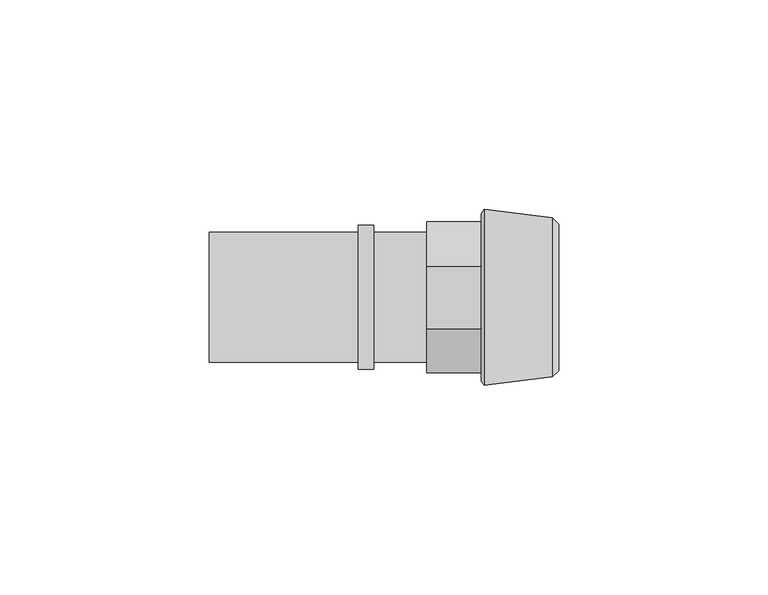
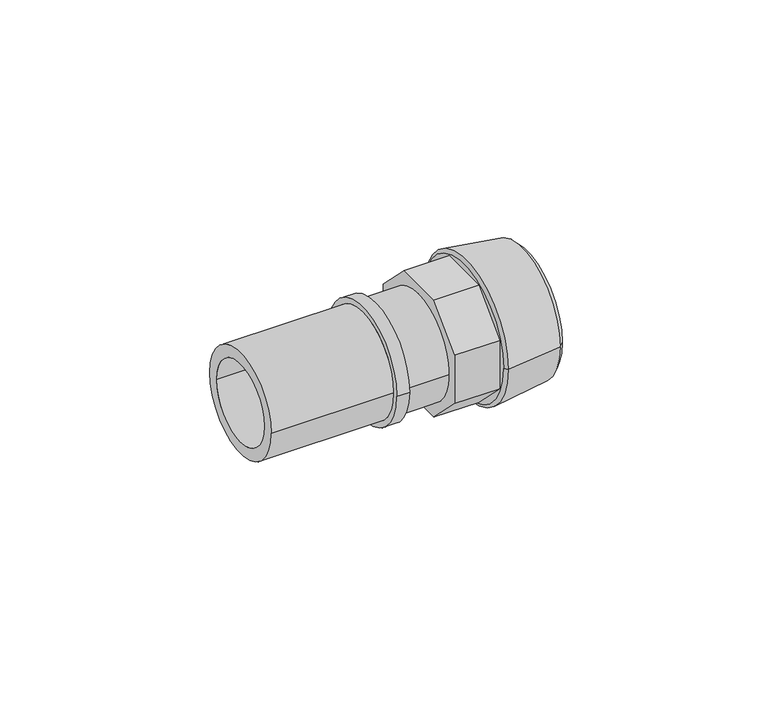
"""IFC4 building model written with IfcOpenShell, lengths in millimetres: pipe fitting geometry, FASTLOC_Adapter_LX, with external thread : FSL A C external PL."""

from ifc_helpers import new_model, si_unit, frame, origin, place, context, project, spatial, polyline, circle_curve, outline, extrude, source, transform, mapped, element, save
from ifc_brep_helpers import plane_surface, cylinder_surface, revolved_surface, advanced_brep


def pipe_fitting_002f9ae5(model_context):
    return source(origin(), model_context, "Body", "SolidModel", [
        extrude(outline(polyline([(-18.0, 7.4558441), (-7.4558441, 18.0), (7.4558441, 18.0), (18.0, 7.4558441), (18.0, -7.4558441), (7.4558441, -18.0), (-7.4558441, -18.0), (-18.0, -7.4558441), (-18.0, 7.4558441)])), frame((0.0, 0.0, 0.0), z_axis=(1.0, 0.0, 0.0), x_axis=(0.0, 1.0, 0.0)), (0.0, 0.0, 1.0), 13.0),
        advanced_brep(
        [(14.1032803, 15.0, 0.0), (14.1032803, -15.0, 0.0), (31.5, -15.0, 0.0), (31.5, 15.0, 0.0), (13.0, 13.8967197, 0.0), (13.0, -13.8967197, 0.0), (13.7406902, 21.0, 0.0), (13.7406902, -21.0, 0.0), (13.0, -20.0, 0.0), (13.0, 20.0, 0.0), (30.0000007, 19.0, 0.0), (30.0000007, -19.0, 0.0), (31.5, 17.5, 0.0), (31.5, -17.5, 0.0)],
        [
            (0, 1, circle_curve(frame((14.1032803, 0.0, 0.0), z_axis=(-1.0, 0.0, 0.0), x_axis=(0.0, -1.0, 0.0)), 15.0)),
            (1, 2),
            (2, 3, circle_curve(frame((31.5, 0.0, 0.0), z_axis=(1.0, 0.0, 0.0), x_axis=(0.0, -1.0, 0.0)), 15.0)),
            (3, 0),
            (4, 5, circle_curve(frame((13.0, 0.0, 0.0), z_axis=(-1.0, 0.0, 0.0), x_axis=(0.0, -1.0, 0.0)), 13.8967197)),
            (5, 1),
            (0, 4),
            (6, 7, circle_curve(frame((13.7406902, 0.0, 0.0), z_axis=(-1.0, 0.0, 0.0), x_axis=(0.0, -1.0, 0.0)), 21.0)),
            (7, 8),
            (8, 9, circle_curve(frame((13.0, 0.0, 0.0), z_axis=(1.0, 0.0, 0.0), x_axis=(0.0, -1.0, 0.0)), 20.0)),
            (9, 6),
            (10, 11, circle_curve(frame((30.0000007, 0.0, 0.0), z_axis=(-1.0, 0.0, 0.0), x_axis=(0.0, -1.0, 0.0)), 19.0)),
            (11, 7),
            (6, 10),
            (12, 13, circle_curve(frame((31.5, 0.0, 0.0), z_axis=(-1.0, 0.0, 0.0), x_axis=(0.0, -1.0, 0.0)), 17.5)),
            (13, 11),
            (10, 12),
            (1, 0, circle_curve(frame((14.1032803, 0.0, 0.0), z_axis=(-1.0, 0.0, 0.0), x_axis=(0.0, 1.0, 0.0)), 15.0)),
            (3, 2, circle_curve(frame((31.5, 0.0, 0.0), z_axis=(1.0, 0.0, 0.0), x_axis=(0.0, 1.0, 0.0)), 15.0)),
            (5, 4, circle_curve(frame((13.0, 0.0, 0.0), z_axis=(-1.0, 0.0, 0.0), x_axis=(0.0, 1.0, 0.0)), 13.8967197)),
            (8, 9, circle_curve(frame((13.0, 0.0, 0.0), z_axis=(-1.0, 0.0, 0.0), x_axis=(0.0, 1.0, 0.0)), 20.0)),
            (7, 6, circle_curve(frame((13.7406902, 0.0, 0.0), z_axis=(-1.0, 0.0, 0.0), x_axis=(0.0, 1.0, 0.0)), 21.0)),
            (11, 10, circle_curve(frame((30.0000007, 0.0, 0.0), z_axis=(-1.0, 0.0, 0.0), x_axis=(0.0, 1.0, 0.0)), 19.0)),
            (13, 12, circle_curve(frame((31.5, 0.0, 0.0), z_axis=(-1.0, 0.0, 0.0), x_axis=(0.0, 1.0, 0.0)), 17.5)),
        ],
        [
            revolved_surface(polyline([(31.5, -15.0, 0.0), (14.1032803, -15.0, 0.0)]), (0.0, 0.0, 0.0), (1.0, 0.0, 0.0)),
            revolved_surface(polyline([(14.1032803, -15.0, 0.0), (13.0, -13.8967197, 0.0)]), (0.0, 0.0, 0.0), (1.0, 0.0, 0.0)),
            revolved_surface(polyline([(13.0, -20.0, 0.0), (13.7406902, -21.0, 0.0)]), (0.0, 0.0, 0.0), (1.0, 0.0, 0.0)),
            revolved_surface(polyline([(13.7406902, -21.0, 0.0), (30.0000007, -19.0, 0.0)]), (0.0, 0.0, 0.0), (1.0, 0.0, 0.0)),
            revolved_surface(polyline([(30.0000007, -19.0, 0.0), (31.5, -17.5, 0.0)]), (0.0, 0.0, 0.0), (1.0, 0.0, 0.0)),
            revolved_surface(polyline([(31.5, 15.0, 0.0), (14.1032803, 15.0, 0.0)]), (0.0, 0.0, 0.0), (1.0, 0.0, 0.0)),
            revolved_surface(polyline([(14.1032803, 15.0, 0.0), (13.0, 13.8967197, 0.0)]), (0.0, 0.0, 0.0), (1.0, 0.0, 0.0)),
            plane_surface(frame((13.0, 0.0, 0.0), z_axis=(-1.0, 0.0, 0.0), x_axis=(0.0, 1.0, 0.0))),
            revolved_surface(polyline([(13.0, 20.0, 0.0), (13.7406902, 21.0, 0.0)]), (0.0, 0.0, 0.0), (1.0, 0.0, 0.0)),
            revolved_surface(polyline([(13.7406902, 21.0, 0.0), (30.0000007, 19.0, 0.0)]), (0.0, 0.0, 0.0), (1.0, 0.0, 0.0)),
            revolved_surface(polyline([(30.0000007, 19.0, 0.0), (31.5, 17.5, 0.0)]), (0.0, 0.0, 0.0), (1.0, 0.0, 0.0)),
            plane_surface(frame((31.5, 0.0, 0.0), z_axis=(1.0, 0.0, 0.0), x_axis=(0.0, 1.0, 0.0))),
        ],
        [
            (0, [[1, 2, 3, 4]]),
            (1, [[5, 6, -1, 7]]),
            (2, [[8, 9, 10, 11]]),
            (3, [[12, 13, -8, 14]]),
            (4, [[15, 16, -12, 17]]),
            (5, [[18, -4, 19, -2]]),
            (6, [[20, -7, -18, -6]]),
            (7, [[21, -10], [-20, -5]]),
            (8, [[22, -11, -21, -9]]),
            (9, [[23, -14, -22, -13]]),
            (10, [[24, -17, -23, -16]]),
            (11, [[-24, -15], [-19, -3]]),
        ],
    ),
        advanced_brep(
        [(-16.4, 15.5, 0.0), (-16.4, -15.5, 0.0), (-51.9, -15.5, 0.0), (-51.9, 15.5, 0.0), (-12.7, 17.2, 0.0), (-12.7, -17.2, 0.0), (-16.4, -17.2, 0.0), (-16.4, 17.2, 0.0), (0.0, 15.5, 0.0), (0.0, -15.5, 0.0), (-12.7, -15.5, 0.0), (-12.7, 15.5, 0.0), (-51.9, 11.95, 0.0), (-51.9, -11.95, 0.0), (0.0, -11.95, 0.0), (0.0, 11.95, 0.0)],
        [
            (0, 1, circle_curve(frame((-16.4, 0.0, 0.0), z_axis=(-1.0, 0.0, 0.0), x_axis=(0.0, -1.0, 0.0)), 15.5)),
            (1, 2),
            (2, 3, circle_curve(frame((-51.9, 0.0, 0.0), z_axis=(1.0, 0.0, 0.0), x_axis=(0.0, -1.0, 0.0)), 15.5)),
            (3, 0),
            (4, 5, circle_curve(frame((-12.7, 0.0, 0.0), z_axis=(-1.0, 0.0, 0.0), x_axis=(0.0, -1.0, 0.0)), 17.2)),
            (5, 6),
            (6, 7, circle_curve(frame((-16.4, 0.0, 0.0), z_axis=(1.0, 0.0, 0.0), x_axis=(0.0, -1.0, 0.0)), 17.2)),
            (7, 4),
            (8, 9, circle_curve(frame((0.0, 0.0, 0.0), z_axis=(-1.0, 0.0, 0.0), x_axis=(0.0, -1.0, 0.0)), 15.5)),
            (9, 10),
            (10, 11, circle_curve(frame((-12.7, 0.0, 0.0), z_axis=(1.0, 0.0, 0.0), x_axis=(0.0, -1.0, 0.0)), 15.5)),
            (11, 8),
            (12, 13, circle_curve(frame((-51.9, 0.0, 0.0), z_axis=(-1.0, 0.0, 0.0), x_axis=(0.0, -1.0, 0.0)), 11.95)),
            (13, 14),
            (14, 15, circle_curve(frame((0.0, 0.0, 0.0), z_axis=(1.0, 0.0, 0.0), x_axis=(0.0, -1.0, 0.0)), 11.95)),
            (15, 12),
            (2, 3, circle_curve(frame((-51.9, 0.0, 0.0), z_axis=(-1.0, 0.0, 0.0), x_axis=(0.0, 1.0, 0.0)), 15.5)),
            (12, 13, circle_curve(frame((-51.9, 0.0, 0.0), z_axis=(1.0, 0.0, 0.0), x_axis=(0.0, 1.0, 0.0)), 11.95)),
            (1, 0, circle_curve(frame((-16.4, 0.0, 0.0), z_axis=(-1.0, 0.0, 0.0), x_axis=(0.0, 1.0, 0.0)), 15.5)),
            (6, 7, circle_curve(frame((-16.4, 0.0, 0.0), z_axis=(-1.0, 0.0, 0.0), x_axis=(0.0, 1.0, 0.0)), 17.2)),
            (5, 4, circle_curve(frame((-12.7, 0.0, 0.0), z_axis=(-1.0, 0.0, 0.0), x_axis=(0.0, 1.0, 0.0)), 17.2)),
            (10, 11, circle_curve(frame((-12.7, 0.0, 0.0), z_axis=(-1.0, 0.0, 0.0), x_axis=(0.0, 1.0, 0.0)), 15.5)),
            (9, 8, circle_curve(frame((0.0, 0.0, 0.0), z_axis=(-1.0, 0.0, 0.0), x_axis=(0.0, 1.0, 0.0)), 15.5)),
            (14, 15, circle_curve(frame((0.0, 0.0, 0.0), z_axis=(-1.0, 0.0, 0.0), x_axis=(0.0, 1.0, 0.0)), 11.95)),
        ],
        [
            cylinder_surface(frame((0.0, 0.0, 0.0), z_axis=(1.0, 0.0, 0.0), x_axis=(0.0, -1.0, 0.0)), 15.5),
            cylinder_surface(frame((0.0, 0.0, 0.0), z_axis=(1.0, 0.0, 0.0), x_axis=(0.0, -1.0, 0.0)), 17.2),
            revolved_surface(polyline([(0.0, -11.95, 0.0), (-51.9, -11.95, 0.0)]), (0.0, 0.0, 0.0), (1.0, 0.0, 0.0)),
            plane_surface(frame((-51.9, 0.0, 0.0), z_axis=(-1.0, 0.0, 0.0), x_axis=(0.0, 1.0, 0.0))),
            cylinder_surface(frame((0.0, 0.0, 0.0), z_axis=(1.0, 0.0, 0.0), x_axis=(0.0, 1.0, 0.0)), 15.5),
            plane_surface(frame((-16.4, 0.0, 0.0), z_axis=(-1.0, 0.0, 0.0), x_axis=(0.0, 1.0, 0.0))),
            cylinder_surface(frame((0.0, 0.0, 0.0), z_axis=(1.0, 0.0, 0.0), x_axis=(0.0, 1.0, 0.0)), 17.2),
            plane_surface(frame((-12.7, 0.0, 0.0), z_axis=(1.0, 0.0, 0.0), x_axis=(0.0, 1.0, 0.0))),
            plane_surface(frame((0.0, 0.0, 0.0), z_axis=(1.0, 0.0, 0.0), x_axis=(0.0, 1.0, 0.0))),
            revolved_surface(polyline([(0.0, 11.95, 0.0), (-51.9, 11.95, 0.0)]), (0.0, 0.0, 0.0), (1.0, 0.0, 0.0)),
        ],
        [
            (0, [[1, 2, 3, 4]]),
            (1, [[5, 6, 7, 8]]),
            (0, [[9, 10, 11, 12]]),
            (2, [[13, 14, 15, 16]]),
            (3, [[17, -3], [18, -13]]),
            (4, [[19, -4, -17, -2]]),
            (5, [[20, -7], [-19, -1]]),
            (6, [[21, -8, -20, -6]]),
            (7, [[-21, -5], [22, -11]]),
            (4, [[23, -12, -22, -10]]),
            (8, [[-23, -9], [24, -15]]),
            (9, [[-18, -16, -24, -14]]),
        ],
    ),
    ])


if __name__ == "__main__":
    model = new_model("IFC4")
    model_context = context("Model", 3, world=origin())
    ifc_project = project(units=[si_unit("LENGTHUNIT", "METRE", prefix="MILLI")], contexts=[model_context])
    site = spatial("IfcSite", under=ifc_project)
    building = spatial("IfcBuilding", under=site)
    placement = place(None, origin())
    pipe_fitting_shape = pipe_fitting_002f9ae5(model_context)
    element("IfcPipeFitting", 1, ObjectType="FASTLOC_Adapter_LX, with external thread : FSL A C external PL", at=placement, inside=building, context=model_context, shape_type="MappedRepresentation", body=[
        mapped(pipe_fitting_shape, transform((0.0, 0.0, 0.0), x_axis=(1.0, 0.0, 0.0), y_axis=(0.0, 1.0, 0.0), z_axis=(0.0, 0.0, 1.0))),
    ])
    save(model, "model.ifc")
